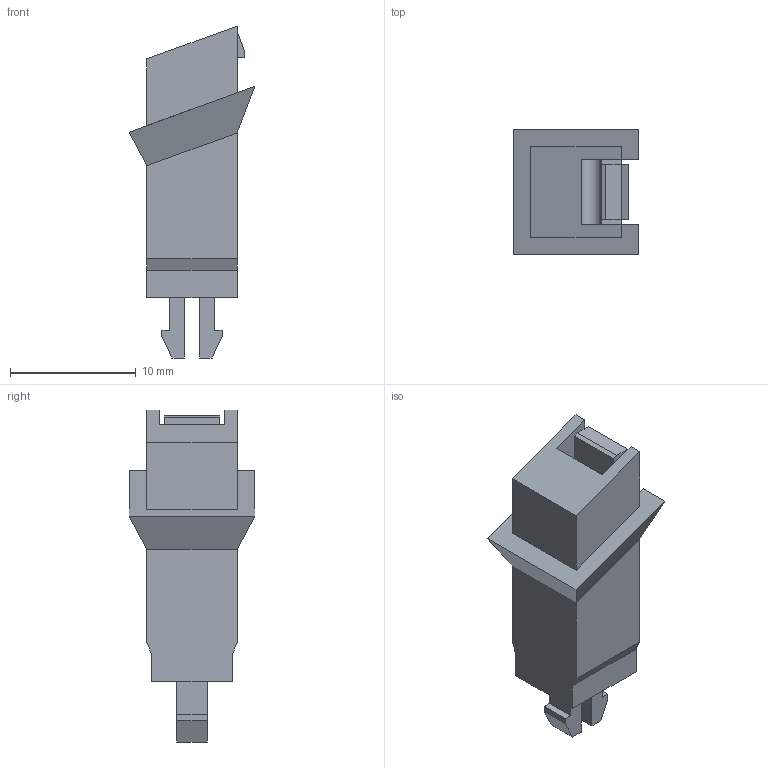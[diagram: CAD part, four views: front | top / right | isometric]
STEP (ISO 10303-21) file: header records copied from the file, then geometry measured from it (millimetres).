
FILE_DESCRIPTION(('Open CASCADE Model'),'2;1');
FILE_NAME('Open CASCADE Shape Model','2026-11-15T18:32:19',('Author'),( 'Open CASCADE'),'Open CASCADE STEP processor 7.9','Open CASCADE 7.9' ,'Unknown');
FILE_SCHEMA(('AUTOMOTIVE_DESIGN { 1 0 10303 214 1 1 1 1 }'));
Length unit declared in the file: millimetre
Products named in the file (1): Open CASCADE STEP translator 7.9 3
Bounding box: 10 x 10 x 26.44 mm (x, y, z)
Volume: 928.2 mm3; surface area: 1262.4 mm2
Topology: 1 solids, 1 shells, 57 faces, 151 edges, 98 vertices
Faces by surface type: plane 50, bspline 5, cylinder 2
Entity records: 3674 total; most frequent: CARTESIAN_POINT 812, DIRECTION 459, LINE 337, VECTOR 337, ORIENTED_EDGE 302, PCURVE 302, DEFINITIONAL_REPRESENTATION 302, EDGE_CURVE 151
